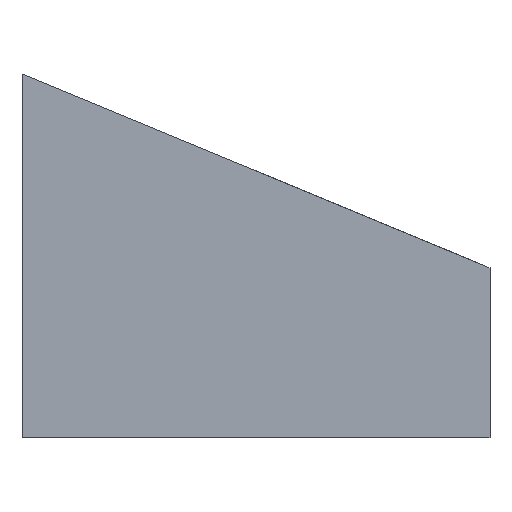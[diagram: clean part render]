
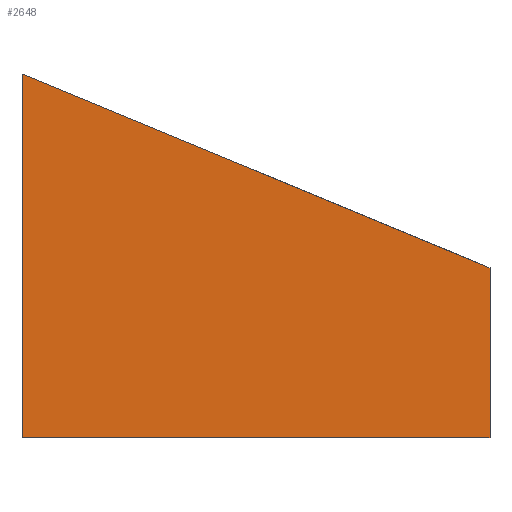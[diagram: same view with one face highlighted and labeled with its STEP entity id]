
A CAD part, front view. The second image highlights one B-rep face of the part: STEP entity #2648.
In plain terms, the highlighted planar face has unit normal (0, -1, 0).
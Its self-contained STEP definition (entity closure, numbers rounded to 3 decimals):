
#13 = ORIENTED_EDGE ( 'NONE', *, *, #2515, .F. ) ;
#48 = DIRECTION ( 'NONE',  ( 0., 0., 1. ) ) ;
#168 = PLANE ( 'NONE',  #2623 ) ;
#349 = VERTEX_POINT ( 'NONE', #2394 ) ;
#358 = DIRECTION ( 'NONE',  ( 0.924, 0., -0.383 ) ) ;
#361 = LINE ( 'NONE', #2192, #1948 ) ;
#375 = LINE ( 'NONE', #2598, #595 ) ;
#595 = VECTOR ( 'NONE', #358, 1000. ) ;
#615 = EDGE_CURVE ( 'NONE', #889, #845, #904, .T. ) ;
#646 = ORIENTED_EDGE ( 'NONE', *, *, #615, .F. ) ;
#845 = VERTEX_POINT ( 'NONE', #1078 ) ;
#849 = CARTESIAN_POINT ( 'NONE',  ( 5160., 2745., 2400. ) ) ;
#889 = VERTEX_POINT ( 'NONE', #2071 ) ;
#904 = LINE ( 'NONE', #1138, #2225 ) ;
#1053 = DIRECTION ( 'NONE',  ( 0., 1., 0. ) ) ;
#1078 = CARTESIAN_POINT ( 'NONE',  ( 5160., 2745., 2540. ) ) ;
#1102 = LINE ( 'NONE', #2477, #1110 ) ;
#1110 = VECTOR ( 'NONE', #2414, 1000. ) ;
#1138 = CARTESIAN_POINT ( 'NONE',  ( 5160., 2745., 2400. ) ) ;
#1431 = VERTEX_POINT ( 'NONE', #2617 ) ;
#1470 = EDGE_CURVE ( 'NONE', #1431, #349, #361, .T. ) ;
#1647 = EDGE_CURVE ( 'NONE', #845, #349, #375, .T. ) ;
#1830 = ORIENTED_EDGE ( 'NONE', *, *, #1647, .F. ) ;
#1893 = EDGE_LOOP ( 'NONE', ( #1830, #646, #13, #2591 ) ) ;
#1948 = VECTOR ( 'NONE', #2401, 1000. ) ;
#2071 = CARTESIAN_POINT ( 'NONE',  ( 5160., 2745., 2400. ) ) ;
#2192 = CARTESIAN_POINT ( 'NONE',  ( 5340., 2745., 2400. ) ) ;
#2225 = VECTOR ( 'NONE', #48, 1000. ) ;
#2394 = CARTESIAN_POINT ( 'NONE',  ( 5340., 2745., 2465.442 ) ) ;
#2401 = DIRECTION ( 'NONE',  ( 0., 0., 1. ) ) ;
#2414 = DIRECTION ( 'NONE',  ( -1., 0., 0. ) ) ;
#2477 = CARTESIAN_POINT ( 'NONE',  ( 5160., 2745., 2400. ) ) ;
#2515 = EDGE_CURVE ( 'NONE', #1431, #889, #1102, .T. ) ;
#2591 = ORIENTED_EDGE ( 'NONE', *, *, #1470, .T. ) ;
#2598 = CARTESIAN_POINT ( 'NONE',  ( 5209.497, 2745., 2519.497 ) ) ;
#2617 = CARTESIAN_POINT ( 'NONE',  ( 5340., 2745., 2400. ) ) ;
#2623 = AXIS2_PLACEMENT_3D ( 'NONE', #849, #1053, #2905 ) ;
#2648 = ADVANCED_FACE ( 'NONE', ( #2858 ), #168, .F. ) ;
#2858 = FACE_OUTER_BOUND ( 'NONE', #1893, .T. ) ;
#2905 = DIRECTION ( 'NONE',  ( -1., 0., 0. ) ) ;
